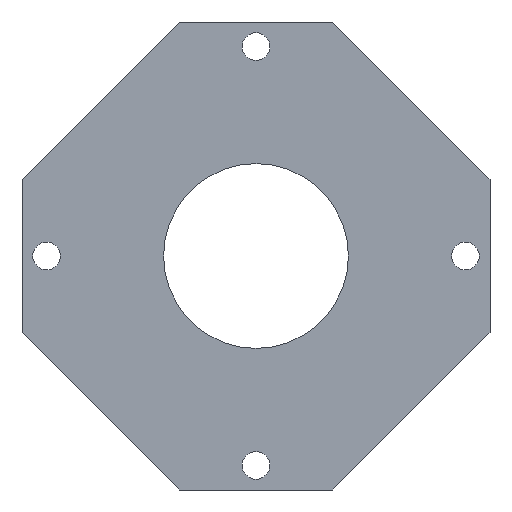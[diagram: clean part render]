
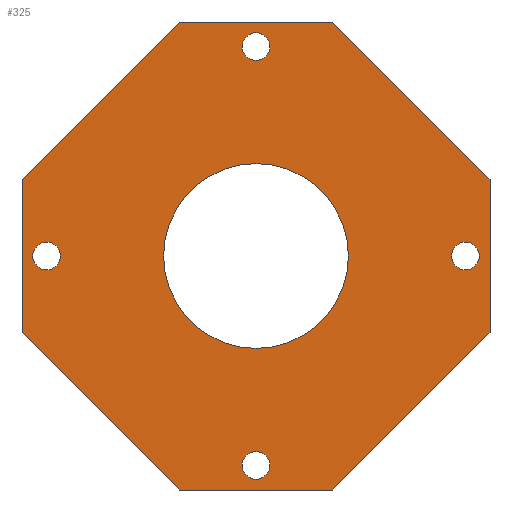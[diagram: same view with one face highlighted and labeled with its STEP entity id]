
A CAD part, front view. The second image highlights one B-rep face of the part: STEP entity #325.
In plain terms, the highlighted planar face has unit normal (0, -1, 0).
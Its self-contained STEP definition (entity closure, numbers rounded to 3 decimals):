
#39=FACE_BOUND('',#89,.T.);
#40=FACE_BOUND('',#90,.T.);
#41=FACE_BOUND('',#91,.T.);
#42=FACE_BOUND('',#92,.T.);
#43=FACE_BOUND('',#93,.T.);
#53=PLANE('',#373);
#68=FACE_OUTER_BOUND('',#88,.T.);
#88=EDGE_LOOP('',(#293,#294,#295,#296,#297,#298,#299,#300));
#89=EDGE_LOOP('',(#301));
#90=EDGE_LOOP('',(#302));
#91=EDGE_LOOP('',(#303));
#92=EDGE_LOOP('',(#304));
#93=EDGE_LOOP('',(#305));
#107=LINE('',#509,#136);
#110=LINE('',#514,#139);
#112=LINE('',#519,#141);
#115=LINE('',#523,#144);
#116=LINE('',#527,#145);
#119=LINE('',#531,#148);
#120=LINE('',#534,#149);
#122=LINE('',#537,#151);
#136=VECTOR('',#424,10.);
#139=VECTOR('',#429,10.);
#141=VECTOR('',#433,10.);
#144=VECTOR('',#438,10.);
#145=VECTOR('',#441,10.);
#148=VECTOR('',#446,10.);
#149=VECTOR('',#449,10.);
#151=VECTOR('',#453,10.);
#152=CIRCLE('',#350,2.25);
#154=CIRCLE('',#353,2.25);
#156=CIRCLE('',#356,2.25);
#158=CIRCLE('',#359,2.25);
#160=CIRCLE('',#362,15.);
#163=VERTEX_POINT('',#460);
#165=VERTEX_POINT('',#466);
#167=VERTEX_POINT('',#472);
#169=VERTEX_POINT('',#478);
#171=VERTEX_POINT('',#484);
#181=VERTEX_POINT('',#507);
#182=VERTEX_POINT('',#508);
#183=VERTEX_POINT('',#513);
#184=VERTEX_POINT('',#517);
#185=VERTEX_POINT('',#518);
#186=VERTEX_POINT('',#525);
#187=VERTEX_POINT('',#526);
#188=VERTEX_POINT('',#533);
#189=EDGE_CURVE('',#163,#163,#152,.T.);
#192=EDGE_CURVE('',#165,#165,#154,.T.);
#195=EDGE_CURVE('',#167,#167,#156,.T.);
#198=EDGE_CURVE('',#169,#169,#158,.T.);
#201=EDGE_CURVE('',#171,#171,#160,.T.);
#212=EDGE_CURVE('',#181,#182,#107,.T.);
#215=EDGE_CURVE('',#183,#181,#110,.T.);
#217=EDGE_CURVE('',#184,#185,#112,.T.);
#220=EDGE_CURVE('',#182,#184,#115,.T.);
#221=EDGE_CURVE('',#186,#187,#116,.T.);
#224=EDGE_CURVE('',#185,#186,#119,.T.);
#225=EDGE_CURVE('',#188,#183,#120,.T.);
#227=EDGE_CURVE('',#187,#188,#122,.T.);
#293=ORIENTED_EDGE('',*,*,#215,.F.);
#294=ORIENTED_EDGE('',*,*,#225,.F.);
#295=ORIENTED_EDGE('',*,*,#227,.F.);
#296=ORIENTED_EDGE('',*,*,#221,.F.);
#297=ORIENTED_EDGE('',*,*,#224,.F.);
#298=ORIENTED_EDGE('',*,*,#217,.F.);
#299=ORIENTED_EDGE('',*,*,#220,.F.);
#300=ORIENTED_EDGE('',*,*,#212,.F.);
#301=ORIENTED_EDGE('',*,*,#189,.T.);
#302=ORIENTED_EDGE('',*,*,#192,.T.);
#303=ORIENTED_EDGE('',*,*,#195,.T.);
#304=ORIENTED_EDGE('',*,*,#198,.T.);
#305=ORIENTED_EDGE('',*,*,#201,.T.);
#325=ADVANCED_FACE('',(#68,#39,#40,#41,#42,#43),#53,.F.);
#350=AXIS2_PLACEMENT_3D('',#461,#379,#380);
#353=AXIS2_PLACEMENT_3D('',#467,#386,#387);
#356=AXIS2_PLACEMENT_3D('',#473,#393,#394);
#359=AXIS2_PLACEMENT_3D('',#479,#400,#401);
#362=AXIS2_PLACEMENT_3D('',#485,#407,#408);
#373=AXIS2_PLACEMENT_3D('',#538,#454,#455);
#379=DIRECTION('center_axis',(0.,1.,0.));
#380=DIRECTION('ref_axis',(-1.,0.,0.));
#386=DIRECTION('center_axis',(0.,1.,0.));
#387=DIRECTION('ref_axis',(-1.,0.,0.));
#393=DIRECTION('center_axis',(0.,1.,0.));
#394=DIRECTION('ref_axis',(-1.,0.,0.));
#400=DIRECTION('center_axis',(0.,1.,0.));
#401=DIRECTION('ref_axis',(-1.,0.,0.));
#407=DIRECTION('center_axis',(0.,1.,0.));
#408=DIRECTION('ref_axis',(-1.,0.,0.));
#424=DIRECTION('',(-0.707,0.,-0.707));
#429=DIRECTION('',(0.,0.,-1.));
#433=DIRECTION('',(-0.707,0.,0.707));
#438=DIRECTION('',(-1.,0.,0.));
#441=DIRECTION('',(0.707,0.,0.707));
#446=DIRECTION('',(0.,0.,1.));
#449=DIRECTION('',(0.707,0.,-0.707));
#453=DIRECTION('',(1.,0.,0.));
#454=DIRECTION('center_axis',(0.,1.,0.));
#455=DIRECTION('ref_axis',(0.,0.,1.));
#460=CARTESIAN_POINT('',(2.25,0.,-34.));
#461=CARTESIAN_POINT('Origin',(0.,0.,-34.));
#466=CARTESIAN_POINT('',(2.25,0.,34.));
#467=CARTESIAN_POINT('Origin',(0.,0.,34.));
#472=CARTESIAN_POINT('',(36.25,0.,0.));
#473=CARTESIAN_POINT('Origin',(34.,0.,0.));
#478=CARTESIAN_POINT('',(-31.75,0.,0.));
#479=CARTESIAN_POINT('Origin',(-34.,0.,0.));
#484=CARTESIAN_POINT('',(15.,0.,0.));
#485=CARTESIAN_POINT('Origin',(0.,0.,0.));
#507=CARTESIAN_POINT('',(38.,0.,-12.5));
#508=CARTESIAN_POINT('',(12.5,0.,-38.));
#509=CARTESIAN_POINT('',(38.,0.,-12.5));
#513=CARTESIAN_POINT('',(38.,0.,12.5));
#514=CARTESIAN_POINT('',(38.,0.,12.5));
#517=CARTESIAN_POINT('',(-12.5,0.,-38.));
#518=CARTESIAN_POINT('',(-38.,0.,-12.5));
#519=CARTESIAN_POINT('',(-12.5,0.,-38.));
#523=CARTESIAN_POINT('',(12.5,0.,-38.));
#525=CARTESIAN_POINT('',(-38.,0.,12.5));
#526=CARTESIAN_POINT('',(-12.5,0.,38.));
#527=CARTESIAN_POINT('',(-38.,0.,12.5));
#531=CARTESIAN_POINT('',(-38.,0.,-12.5));
#533=CARTESIAN_POINT('',(12.5,0.,38.));
#534=CARTESIAN_POINT('',(12.5,0.,38.));
#537=CARTESIAN_POINT('',(-12.5,0.,38.));
#538=CARTESIAN_POINT('Origin',(0.,0.,14.776));
